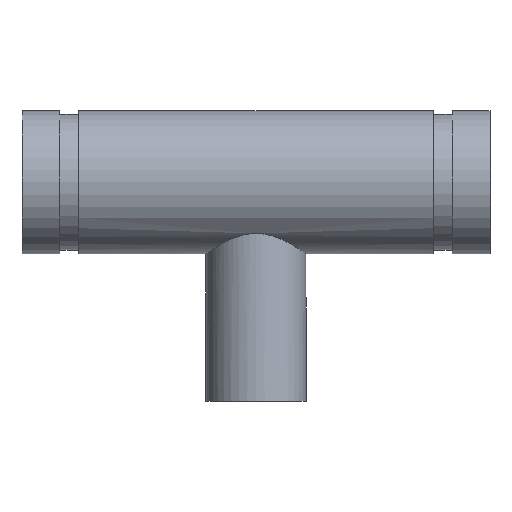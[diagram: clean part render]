
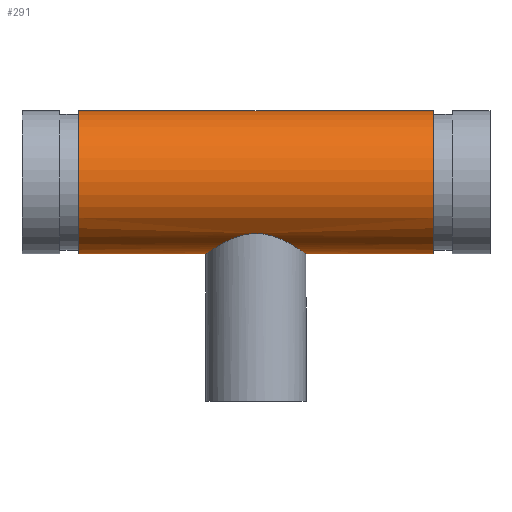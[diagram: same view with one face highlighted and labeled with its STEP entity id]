
A CAD part, top view. The second image highlights one B-rep face of the part: STEP entity #291.
In plain terms, the highlighted cylindrical face has radius 30.163 mm (diameter 60.325 mm), a full revolution.
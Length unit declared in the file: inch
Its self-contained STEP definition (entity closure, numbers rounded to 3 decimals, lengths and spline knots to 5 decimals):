
#45=B_SPLINE_CURVE_WITH_KNOTS('',3,(#511,#512,#513,#514,#515,#516,#517,
#518,#519,#520,#521,#522,#523,#524,#525,#526,#527,#528,#529,#530,#531,#532,
#533,#534,#535,#536,#537,#538,#539,#540,#541,#542,#543,#544,#545,#546,#547,
#548,#549,#550,#551,#552,#553,#554,#555,#556,#557,#558,#559,#560),
 .UNSPECIFIED.,.F.,.F.,(4,2,2,2,2,2,2,2,2,2,2,2,2,2,2,2,2,2,2,2,2,2,2,2,
4),(0.,0.41885,0.8377,1.25655,1.6754,
2.08832,2.50125,2.91417,3.32709,3.74001,
4.15293,4.56585,4.97877,5.39762,5.81648,
6.23533,6.65418,7.07303,7.49188,7.91073,
8.32958,8.7425,9.15542,9.56834,9.98127),
 .UNSPECIFIED.);
#46=B_SPLINE_CURVE_WITH_KNOTS('',3,(#561,#562,#563,#564,#565,#566,#567,
#568,#569,#570,#571,#572,#573,#574,#575,#576,#577,#578),.UNSPECIFIED.,.F.,
 .F.,(4,2,2,2,2,2,2,2,4),(9.98127,10.39419,10.80711,
11.22003,11.63295,12.0518,12.47065,12.8895,
13.30835),.UNSPECIFIED.);
#51=LINE('',#508,#59);
#59=VECTOR('',#410,1.1875);
#67=CYLINDRICAL_SURFACE('',#338,1.1875);
#77=FACE_BOUND('',#108,.T.);
#88=FACE_OUTER_BOUND('',#107,.T.);
#107=EDGE_LOOP('',(#221,#222,#223,#224));
#108=EDGE_LOOP('',(#225,#226));
#121=CIRCLE('',#321,1.1875);
#132=CIRCLE('',#337,1.1875);
#141=VERTEX_POINT('',#476);
#152=VERTEX_POINT('',#505);
#153=VERTEX_POINT('',#509);
#154=VERTEX_POINT('',#510);
#165=EDGE_CURVE('',#141,#141,#121,.T.);
#178=EDGE_CURVE('',#152,#152,#132,.T.);
#179=EDGE_CURVE('',#152,#141,#51,.T.);
#180=EDGE_CURVE('',#153,#154,#45,.T.);
#181=EDGE_CURVE('',#154,#153,#46,.T.);
#221=ORIENTED_EDGE('',*,*,#178,.T.);
#222=ORIENTED_EDGE('',*,*,#179,.T.);
#223=ORIENTED_EDGE('',*,*,#165,.T.);
#224=ORIENTED_EDGE('',*,*,#179,.F.);
#225=ORIENTED_EDGE('',*,*,#180,.F.);
#226=ORIENTED_EDGE('',*,*,#181,.F.);
#291=ADVANCED_FACE('',(#88,#77),#67,.T.);
#321=AXIS2_PLACEMENT_3D('',#477,#372,#373);
#337=AXIS2_PLACEMENT_3D('',#506,#406,#407);
#338=AXIS2_PLACEMENT_3D('',#507,#408,#409);
#372=DIRECTION('center_axis',(-1.,0.,0.));
#373=DIRECTION('ref_axis',(0.,-1.,0.));
#406=DIRECTION('center_axis',(1.,0.,0.));
#407=DIRECTION('ref_axis',(0.,-1.,0.));
#408=DIRECTION('center_axis',(-1.,0.,0.));
#409=DIRECTION('ref_axis',(0.,-1.,0.));
#410=DIRECTION('',(1.,0.,0.));
#476=CARTESIAN_POINT('',(2.942,1.1875,0.));
#477=CARTESIAN_POINT('Origin',(2.942,0.,0.));
#505=CARTESIAN_POINT('',(-2.942,1.1875,0.));
#506=CARTESIAN_POINT('Origin',(-2.942,0.,0.));
#507=CARTESIAN_POINT('Origin',(3.88,0.,0.));
#508=CARTESIAN_POINT('',(3.88,1.1875,0.));
#509=CARTESIAN_POINT('',(0.,-0.84927,-0.83));
#510=CARTESIAN_POINT('',(-0.83,-1.1875,0.));
#511=CARTESIAN_POINT('Ctrl Pts',(0.,-0.84927,
-0.83));
#512=CARTESIAN_POINT('Ctrl Pts',(0.05497,-0.84927,
-0.83));
#513=CARTESIAN_POINT('Ctrl Pts',(0.11058,-0.85477,-0.82447));
#514=CARTESIAN_POINT('Ctrl Pts',(0.21939,-0.87552,-0.8024));
#515=CARTESIAN_POINT('Ctrl Pts',(0.27259,-0.89069,-0.78588));
#516=CARTESIAN_POINT('Ctrl Pts',(0.37366,-0.92663,-0.74316));
#517=CARTESIAN_POINT('Ctrl Pts',(0.42163,-0.94738,-0.71693));
#518=CARTESIAN_POINT('Ctrl Pts',(0.51022,-0.98999,-0.65684));
#519=CARTESIAN_POINT('Ctrl Pts',(0.55084,-1.01183,-0.62296));
#520=CARTESIAN_POINT('Ctrl Pts',(0.62245,-1.05254,-0.55135));
#521=CARTESIAN_POINT('Ctrl Pts',(0.65623,-1.07301,-0.51101));
#522=CARTESIAN_POINT('Ctrl Pts',(0.71648,-1.11088,-0.42241));
#523=CARTESIAN_POINT('Ctrl Pts',(0.74295,-1.12826,-0.37413));
#524=CARTESIAN_POINT('Ctrl Pts',(0.786,-1.15706,-0.27233));
#525=CARTESIAN_POINT('Ctrl Pts',(0.8026,-1.16849,-0.21869));
#526=CARTESIAN_POINT('Ctrl Pts',(0.82461,-1.18371,-0.10962));
#527=CARTESIAN_POINT('Ctrl Pts',(0.83,-1.1875,-0.05419));
#528=CARTESIAN_POINT('Ctrl Pts',(0.83,-1.1875,0.05419));
#529=CARTESIAN_POINT('Ctrl Pts',(0.82461,-1.18371,0.10962));
#530=CARTESIAN_POINT('Ctrl Pts',(0.8026,-1.16849,0.21869));
#531=CARTESIAN_POINT('Ctrl Pts',(0.786,-1.15706,0.27233));
#532=CARTESIAN_POINT('Ctrl Pts',(0.74295,-1.12826,0.37413));
#533=CARTESIAN_POINT('Ctrl Pts',(0.71648,-1.11088,0.42241));
#534=CARTESIAN_POINT('Ctrl Pts',(0.65623,-1.07301,0.51101));
#535=CARTESIAN_POINT('Ctrl Pts',(0.62245,-1.05254,0.55135));
#536=CARTESIAN_POINT('Ctrl Pts',(0.55084,-1.01183,0.62296));
#537=CARTESIAN_POINT('Ctrl Pts',(0.51022,-0.98999,0.65684));
#538=CARTESIAN_POINT('Ctrl Pts',(0.42163,-0.94738,0.71693));
#539=CARTESIAN_POINT('Ctrl Pts',(0.37366,-0.92663,0.74316));
#540=CARTESIAN_POINT('Ctrl Pts',(0.27259,-0.89069,0.78588));
#541=CARTESIAN_POINT('Ctrl Pts',(0.21939,-0.87552,0.8024));
#542=CARTESIAN_POINT('Ctrl Pts',(0.11058,-0.85477,0.82447));
#543=CARTESIAN_POINT('Ctrl Pts',(0.05497,-0.84927,
0.83));
#544=CARTESIAN_POINT('Ctrl Pts',(-0.05497,-0.84927,
0.83));
#545=CARTESIAN_POINT('Ctrl Pts',(-0.11058,-0.85477,
0.82447));
#546=CARTESIAN_POINT('Ctrl Pts',(-0.21939,-0.87552,
0.8024));
#547=CARTESIAN_POINT('Ctrl Pts',(-0.27259,-0.89069,
0.78588));
#548=CARTESIAN_POINT('Ctrl Pts',(-0.37366,-0.92663,
0.74316));
#549=CARTESIAN_POINT('Ctrl Pts',(-0.42163,-0.94738,
0.71693));
#550=CARTESIAN_POINT('Ctrl Pts',(-0.51022,-0.98999,
0.65684));
#551=CARTESIAN_POINT('Ctrl Pts',(-0.55084,-1.01183,0.62296));
#552=CARTESIAN_POINT('Ctrl Pts',(-0.62245,-1.05254,0.55135));
#553=CARTESIAN_POINT('Ctrl Pts',(-0.65623,-1.07301,0.51101));
#554=CARTESIAN_POINT('Ctrl Pts',(-0.71648,-1.11088,0.42241));
#555=CARTESIAN_POINT('Ctrl Pts',(-0.74295,-1.12826,0.37413));
#556=CARTESIAN_POINT('Ctrl Pts',(-0.786,-1.15706,0.27233));
#557=CARTESIAN_POINT('Ctrl Pts',(-0.8026,-1.16849,0.21869));
#558=CARTESIAN_POINT('Ctrl Pts',(-0.82461,-1.18371,0.10962));
#559=CARTESIAN_POINT('Ctrl Pts',(-0.83,-1.1875,0.05419));
#560=CARTESIAN_POINT('Ctrl Pts',(-0.83,-1.1875,0.));
#561=CARTESIAN_POINT('Ctrl Pts',(-0.83,-1.1875,0.));
#562=CARTESIAN_POINT('Ctrl Pts',(-0.83,-1.1875,-0.05419));
#563=CARTESIAN_POINT('Ctrl Pts',(-0.82461,-1.18371,-0.10962));
#564=CARTESIAN_POINT('Ctrl Pts',(-0.8026,-1.16849,-0.21869));
#565=CARTESIAN_POINT('Ctrl Pts',(-0.786,-1.15706,-0.27233));
#566=CARTESIAN_POINT('Ctrl Pts',(-0.74295,-1.12826,-0.37413));
#567=CARTESIAN_POINT('Ctrl Pts',(-0.71648,-1.11088,-0.42241));
#568=CARTESIAN_POINT('Ctrl Pts',(-0.65623,-1.07301,-0.51101));
#569=CARTESIAN_POINT('Ctrl Pts',(-0.62245,-1.05254,-0.55135));
#570=CARTESIAN_POINT('Ctrl Pts',(-0.55084,-1.01183,-0.62296));
#571=CARTESIAN_POINT('Ctrl Pts',(-0.51022,-0.98999,
-0.65684));
#572=CARTESIAN_POINT('Ctrl Pts',(-0.42163,-0.94738,
-0.71693));
#573=CARTESIAN_POINT('Ctrl Pts',(-0.37366,-0.92663,
-0.74316));
#574=CARTESIAN_POINT('Ctrl Pts',(-0.27259,-0.89069,
-0.78588));
#575=CARTESIAN_POINT('Ctrl Pts',(-0.21939,-0.87552,-0.8024));
#576=CARTESIAN_POINT('Ctrl Pts',(-0.11058,-0.85477,
-0.82447));
#577=CARTESIAN_POINT('Ctrl Pts',(-0.05497,-0.84927,
-0.83));
#578=CARTESIAN_POINT('Ctrl Pts',(0.,-0.84927,
-0.83));
